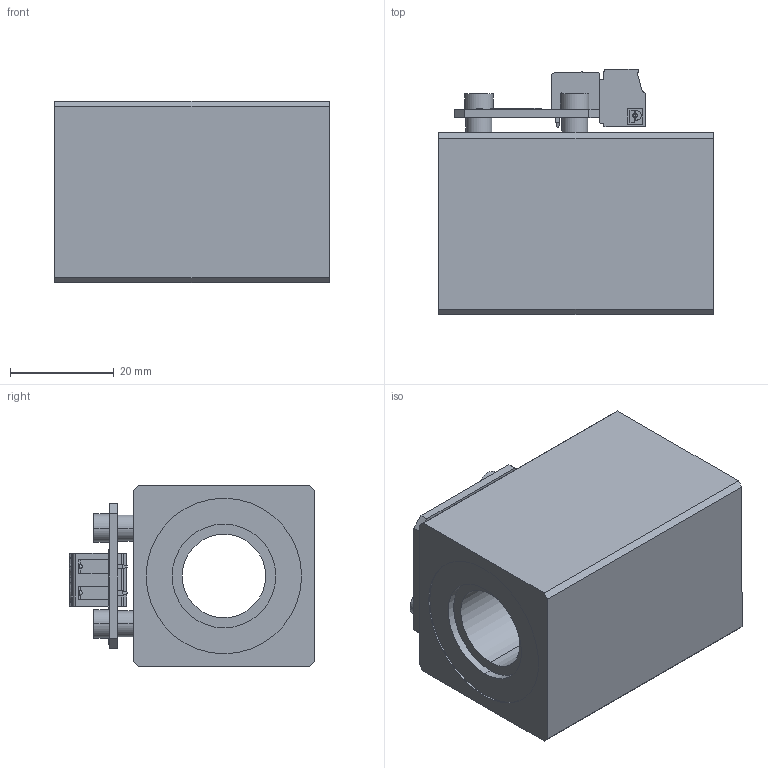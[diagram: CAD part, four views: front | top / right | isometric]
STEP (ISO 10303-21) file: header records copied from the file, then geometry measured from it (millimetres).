
FILE_DESCRIPTION (( 'STEP AP214' ), '1' );
FILE_NAME ('MXS35_16x50-M209b.STEP', '2015-07-07T05:22:03', ( '' ), ( '' ), 'SwSTEP 2.0', 'SolidWorks 2014', '' );
FILE_SCHEMA (( 'AUTOMOTIVE_DESIGN' ));
Length unit declared in the file: millimetre
Products named in the file (2): MXS35_16x50-M209b
Bounding box: 53 x 47.3 x 35 mm (x, y, z)
Volume: 55971.1 mm3; surface area: 16823.8 mm2
Topology: 18 solids, 18 shells, 597 faces, 1505 edges, 978 vertices
Faces by surface type: plane 363, cylinder 201, cone 20, bspline 11, torus 2
Entity records: 25125 total; most frequent: CARTESIAN_POINT 3841, ORIENTED_EDGE 2990, DIRECTION 2978, EDGE_CURVE 1495, LINE 1014, VECTOR 1014, AXIS2_PLACEMENT_3D 982, VERTEX_POINT 978
